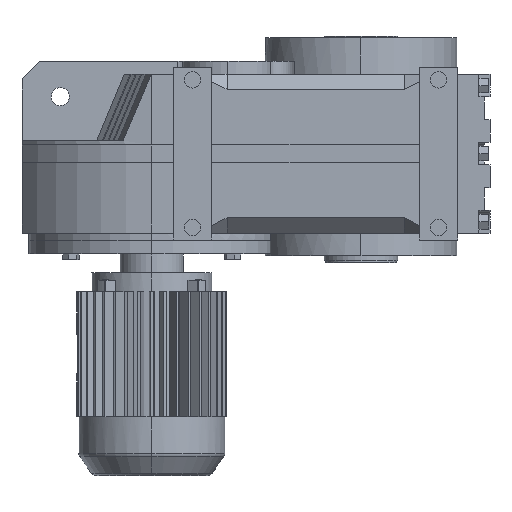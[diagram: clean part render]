
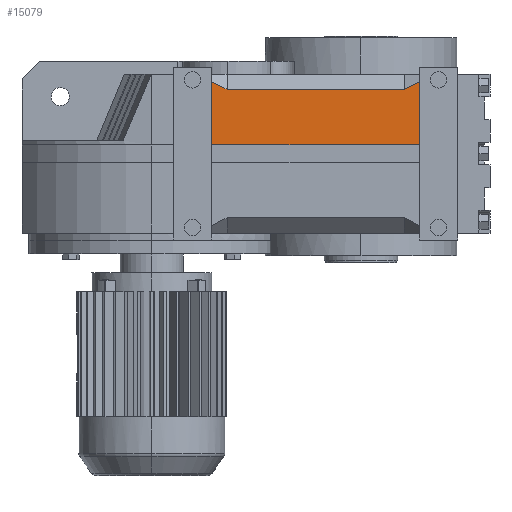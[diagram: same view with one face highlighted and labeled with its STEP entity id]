
A CAD part, left-side view. The second image highlights one B-rep face of the part: STEP entity #15079.
In plain terms, the highlighted planar face has unit normal (-1, 0, 0).
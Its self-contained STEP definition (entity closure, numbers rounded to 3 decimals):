
#3062 = PLANE('',#3063);
#3063 = AXIS2_PLACEMENT_3D('',#3064,#3065,#3066);
#3064 = CARTESIAN_POINT('',(-207.36,-109.6,0.75));
#3065 = DIRECTION('',(0.,-1.,0.));
#3066 = DIRECTION('',(1.,0.,0.));
#3090 = PLANE('',#3091);
#3091 = AXIS2_PLACEMENT_3D('',#3092,#3093,#3094);
#3092 = CARTESIAN_POINT('',(-374.746,-109.6,168.136));
#3093 = DIRECTION('',(-0.664,-0.342,0.664));
#3094 = DIRECTION('',(0.707,0.,0.707));
#3118 = PLANE('',#3119);
#3119 = AXIS2_PLACEMENT_3D('',#3120,#3121,#3122);
#3120 = CARTESIAN_POINT('',(-224.36,1.,304.11));
#3121 = DIRECTION('',(-0.707,0.,0.707
    ));
#3122 = DIRECTION('',(0.707,0.,0.707));
#3146 = PLANE('',#3147);
#3147 = AXIS2_PLACEMENT_3D('',#3148,#3149,#3150);
#3148 = CARTESIAN_POINT('',(-374.746,-489.6,168.136));
#3149 = DIRECTION('',(-0.664,0.342,0.664));
#3150 = DIRECTION('',(0.707,0.,0.707));
#3174 = PLANE('',#3175);
#3175 = AXIS2_PLACEMENT_3D('',#3176,#3177,#3178);
#3176 = CARTESIAN_POINT('',(-207.36,-489.6,0.75));
#3177 = DIRECTION('',(0.,1.,0.));
#3178 = DIRECTION('',(0.,0.,1.));
#7769 = VERTEX_POINT('',#7770);
#7770 = CARTESIAN_POINT('',(-252.36,-109.6,174.55));
#7784 = PLANE('',#7785);
#7785 = AXIS2_PLACEMENT_3D('',#7786,#7787,#7788);
#7786 = CARTESIAN_POINT('',(24.115,1.,174.55));
#7787 = DIRECTION('',(0.,0.,-1.));
#7788 = DIRECTION('',(-1.,0.,0.));
#7796 = EDGE_CURVE('',#7797,#7769,#7799,.T.);
#7797 = VERTEX_POINT('',#7798);
#7798 = CARTESIAN_POINT('',(-252.36,-109.6,290.522));
#7799 = SURFACE_CURVE('',#7800,(#7804,#7811),.PCURVE_S1.);
#7800 = LINE('',#7801,#7802);
#7801 = CARTESIAN_POINT('',(-252.36,-109.6,304.11));
#7802 = VECTOR('',#7803,1.);
#7803 = DIRECTION('',(0.,0.,-1.));
#7804 = PCURVE('',#3062,#7805);
#7805 = DEFINITIONAL_REPRESENTATION('',(#7806),#7810);
#7806 = LINE('',#7807,#7808);
#7807 = CARTESIAN_POINT('',(-45.,303.36));
#7808 = VECTOR('',#7809,1.);
#7809 = DIRECTION('',(0.,-1.));
#7810 = ( GEOMETRIC_REPRESENTATION_CONTEXT(2) 
PARAMETRIC_REPRESENTATION_CONTEXT() REPRESENTATION_CONTEXT('2D SPACE',''
  ) );
#7811 = PCURVE('',#7812,#7817);
#7812 = PLANE('',#7813);
#7813 = AXIS2_PLACEMENT_3D('',#7814,#7815,#7816);
#7814 = CARTESIAN_POINT('',(-252.36,-618.6,304.11));
#7815 = DIRECTION('',(1.,0.,0.));
#7816 = DIRECTION('',(0.,1.,0.));
#7817 = DEFINITIONAL_REPRESENTATION('',(#7818),#7822);
#7818 = LINE('',#7819,#7820);
#7819 = CARTESIAN_POINT('',(509.,0.));
#7820 = VECTOR('',#7821,1.);
#7821 = DIRECTION('',(0.,-1.));
#7822 = ( GEOMETRIC_REPRESENTATION_CONTEXT(2) 
PARAMETRIC_REPRESENTATION_CONTEXT() REPRESENTATION_CONTEXT('2D SPACE',''
  ) );
#9614 = VERTEX_POINT('',#9615);
#9615 = CARTESIAN_POINT('',(-252.36,-137.6,276.11));
#9636 = EDGE_CURVE('',#9637,#9614,#9639,.T.);
#9637 = VERTEX_POINT('',#9638);
#9638 = CARTESIAN_POINT('',(-252.36,-461.6,276.11));
#9639 = SURFACE_CURVE('',#9640,(#9644,#9651),.PCURVE_S1.);
#9640 = LINE('',#9641,#9642);
#9641 = CARTESIAN_POINT('',(-252.36,-109.6,276.11));
#9642 = VECTOR('',#9643,1.);
#9643 = DIRECTION('',(0.,1.,0.));
#9644 = PCURVE('',#3118,#9645);
#9645 = DEFINITIONAL_REPRESENTATION('',(#9646),#9650);
#9646 = LINE('',#9647,#9648);
#9647 = CARTESIAN_POINT('',(-39.598,-110.6));
#9648 = VECTOR('',#9649,1.);
#9649 = DIRECTION('',(0.,1.));
#9650 = ( GEOMETRIC_REPRESENTATION_CONTEXT(2) 
PARAMETRIC_REPRESENTATION_CONTEXT() REPRESENTATION_CONTEXT('2D SPACE',''
  ) );
#9651 = PCURVE('',#7812,#9652);
#9652 = DEFINITIONAL_REPRESENTATION('',(#9653),#9657);
#9653 = LINE('',#9654,#9655);
#9654 = CARTESIAN_POINT('',(509.,-28.));
#9655 = VECTOR('',#9656,1.);
#9656 = DIRECTION('',(1.,0.));
#9657 = ( GEOMETRIC_REPRESENTATION_CONTEXT(2) 
PARAMETRIC_REPRESENTATION_CONTEXT() REPRESENTATION_CONTEXT('2D SPACE',''
  ) );
#10302 = EDGE_CURVE('',#10303,#9637,#10305,.T.);
#10303 = VERTEX_POINT('',#10304);
#10304 = CARTESIAN_POINT('',(-252.36,-489.6,290.522));
#10305 = SURFACE_CURVE('',#10306,(#10310,#10317),.PCURVE_S1.);
#10306 = LINE('',#10307,#10308);
#10307 = CARTESIAN_POINT('',(-252.36,-597.109,345.861));
#10308 = VECTOR('',#10309,1.);
#10309 = DIRECTION('',(0.,0.889,
    -0.458));
#10310 = PCURVE('',#3146,#10311);
#10311 = DEFINITIONAL_REPRESENTATION('',(#10312),#10316);
#10312 = LINE('',#10313,#10314);
#10313 = CARTESIAN_POINT('',(212.211,-114.409));
#10314 = VECTOR('',#10315,1.);
#10315 = DIRECTION('',(-0.324,0.946));
#10316 = ( GEOMETRIC_REPRESENTATION_CONTEXT(2) 
PARAMETRIC_REPRESENTATION_CONTEXT() REPRESENTATION_CONTEXT('2D SPACE',''
  ) );
#10317 = PCURVE('',#7812,#10318);
#10318 = DEFINITIONAL_REPRESENTATION('',(#10319),#10323);
#10319 = LINE('',#10320,#10321);
#10320 = CARTESIAN_POINT('',(21.491,41.751));
#10321 = VECTOR('',#10322,1.);
#10322 = DIRECTION('',(0.889,-0.458));
#10323 = ( GEOMETRIC_REPRESENTATION_CONTEXT(2) 
PARAMETRIC_REPRESENTATION_CONTEXT() REPRESENTATION_CONTEXT('2D SPACE',''
  ) );
#12686 = EDGE_CURVE('',#12687,#10303,#12689,.T.);
#12687 = VERTEX_POINT('',#12688);
#12688 = CARTESIAN_POINT('',(-252.36,-489.6,174.55));
#12689 = SURFACE_CURVE('',#12690,(#12694,#12701),.PCURVE_S1.);
#12690 = LINE('',#12691,#12692);
#12691 = CARTESIAN_POINT('',(-252.36,-489.6,304.11));
#12692 = VECTOR('',#12693,1.);
#12693 = DIRECTION('',(0.,0.,1.));
#12694 = PCURVE('',#3174,#12695);
#12695 = DEFINITIONAL_REPRESENTATION('',(#12696),#12700);
#12696 = LINE('',#12697,#12698);
#12697 = CARTESIAN_POINT('',(303.36,-45.));
#12698 = VECTOR('',#12699,1.);
#12699 = DIRECTION('',(1.,0.));
#12700 = ( GEOMETRIC_REPRESENTATION_CONTEXT(2) 
PARAMETRIC_REPRESENTATION_CONTEXT() REPRESENTATION_CONTEXT('2D SPACE',''
  ) );
#12701 = PCURVE('',#7812,#12702);
#12702 = DEFINITIONAL_REPRESENTATION('',(#12703),#12707);
#12703 = LINE('',#12704,#12705);
#12704 = CARTESIAN_POINT('',(129.,0.));
#12705 = VECTOR('',#12706,1.);
#12706 = DIRECTION('',(0.,1.));
#12707 = ( GEOMETRIC_REPRESENTATION_CONTEXT(2) 
PARAMETRIC_REPRESENTATION_CONTEXT() REPRESENTATION_CONTEXT('2D SPACE',''
  ) );
#12962 = EDGE_CURVE('',#9614,#7797,#12963,.T.);
#12963 = SURFACE_CURVE('',#12964,(#12968,#12975),.PCURVE_S1.);
#12964 = LINE('',#12965,#12966);
#12965 = CARTESIAN_POINT('',(-252.36,-506.459,86.247));
#12966 = VECTOR('',#12967,1.);
#12967 = DIRECTION('',(0.,0.889,0.458
    ));
#12968 = PCURVE('',#3090,#12969);
#12969 = DEFINITIONAL_REPRESENTATION('',(#12970),#12974);
#12970 = LINE('',#12971,#12972);
#12971 = CARTESIAN_POINT('',(28.635,-422.328));
#12972 = VECTOR('',#12973,1.);
#12973 = DIRECTION('',(0.324,0.946));
#12974 = ( GEOMETRIC_REPRESENTATION_CONTEXT(2) 
PARAMETRIC_REPRESENTATION_CONTEXT() REPRESENTATION_CONTEXT('2D SPACE',''
  ) );
#12975 = PCURVE('',#7812,#12976);
#12976 = DEFINITIONAL_REPRESENTATION('',(#12977),#12981);
#12977 = LINE('',#12978,#12979);
#12978 = CARTESIAN_POINT('',(112.141,-217.863));
#12979 = VECTOR('',#12980,1.);
#12980 = DIRECTION('',(0.889,0.458));
#12981 = ( GEOMETRIC_REPRESENTATION_CONTEXT(2) 
PARAMETRIC_REPRESENTATION_CONTEXT() REPRESENTATION_CONTEXT('2D SPACE',''
  ) );
#15079 = ADVANCED_FACE('',(#15080),#7812,.F.);
#15080 = FACE_BOUND('',#15081,.T.);
#15081 = EDGE_LOOP('',(#15082,#15083,#15084,#15085,#15086,#15087));
#15082 = ORIENTED_EDGE('',*,*,#12686,.T.);
#15083 = ORIENTED_EDGE('',*,*,#10302,.T.);
#15084 = ORIENTED_EDGE('',*,*,#9636,.T.);
#15085 = ORIENTED_EDGE('',*,*,#12962,.T.);
#15086 = ORIENTED_EDGE('',*,*,#7796,.T.);
#15087 = ORIENTED_EDGE('',*,*,#15088,.F.);
#15088 = EDGE_CURVE('',#12687,#7769,#15089,.T.);
#15089 = SURFACE_CURVE('',#15090,(#15094,#15101),.PCURVE_S1.);
#15090 = LINE('',#15091,#15092);
#15091 = CARTESIAN_POINT('',(-252.36,-618.6,174.55));
#15092 = VECTOR('',#15093,1.);
#15093 = DIRECTION('',(0.,1.,0.));
#15094 = PCURVE('',#7812,#15095);
#15095 = DEFINITIONAL_REPRESENTATION('',(#15096),#15100);
#15096 = LINE('',#15097,#15098);
#15097 = CARTESIAN_POINT('',(0.,-129.56));
#15098 = VECTOR('',#15099,1.);
#15099 = DIRECTION('',(1.,0.));
#15100 = ( GEOMETRIC_REPRESENTATION_CONTEXT(2) 
PARAMETRIC_REPRESENTATION_CONTEXT() REPRESENTATION_CONTEXT('2D SPACE',''
  ) );
#15101 = PCURVE('',#7784,#15102);
#15102 = DEFINITIONAL_REPRESENTATION('',(#15103),#15107);
#15103 = LINE('',#15104,#15105);
#15104 = CARTESIAN_POINT('',(276.475,-619.6));
#15105 = VECTOR('',#15106,1.);
#15106 = DIRECTION('',(0.,1.));
#15107 = ( GEOMETRIC_REPRESENTATION_CONTEXT(2) 
PARAMETRIC_REPRESENTATION_CONTEXT() REPRESENTATION_CONTEXT('2D SPACE',''
  ) );
